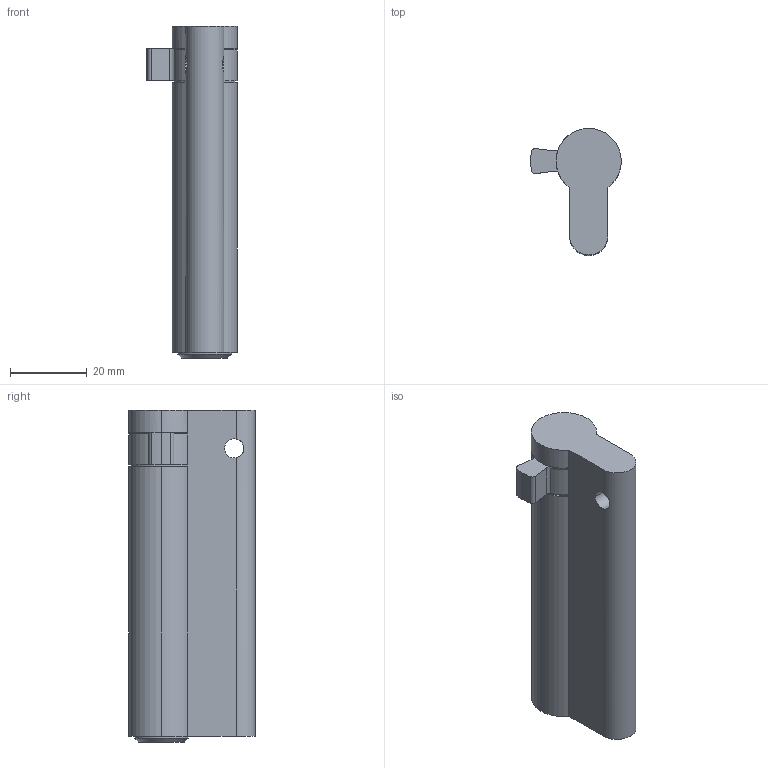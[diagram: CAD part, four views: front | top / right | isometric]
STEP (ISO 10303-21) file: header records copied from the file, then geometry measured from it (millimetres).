
FILE_DESCRIPTION (( 'STEP AP214' ), '1' );
FILE_NAME ('TPL-H-EU-515-R 29Oct2024.STEP', '2024-10-29T22:21:37', ( '' ), ( '' ), 'SwSTEP 2.0', 'SolidWorks 2023', '' );
FILE_SCHEMA (( 'AUTOMOTIVE_DESIGN' ));
Length unit declared in the file: millimetre
Products named in the file (1): TPL-H-EU-515-R 29Oct2024
Bounding box: 23.6 x 33 x 86.5 mm (x, y, z)
Volume: 32430.6 mm3; surface area: 8741.5 mm2
Topology: 1 solids, 1 shells, 46 faces, 127 edges, 80 vertices
Faces by surface type: cylinder 27, plane 16, cone 3
Entity records: 1575 total; most frequent: CARTESIAN_POINT 324, DIRECTION 278, ORIENTED_EDGE 254, EDGE_CURVE 127, AXIS2_PLACEMENT_3D 110, VERTEX_POINT 80, CIRCLE 63, VECTOR 58
